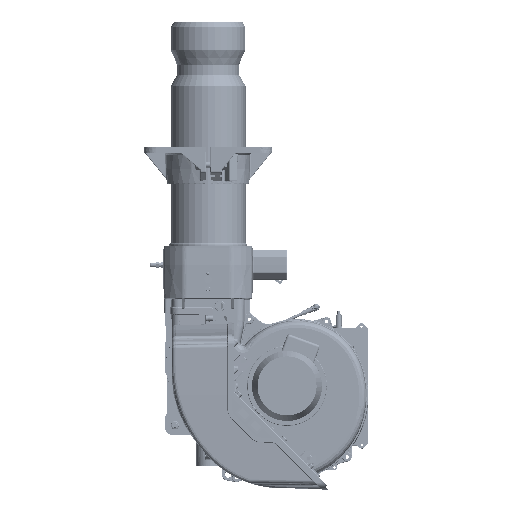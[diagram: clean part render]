
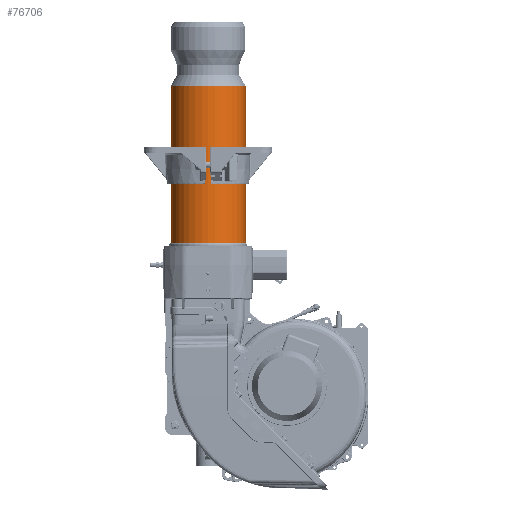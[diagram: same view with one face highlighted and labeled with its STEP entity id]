
A CAD part, left-side view. The second image highlights one B-rep face of the part: STEP entity #76706.
In plain terms, the highlighted cylindrical face has radius 76 mm (diameter 152 mm), a full revolution.
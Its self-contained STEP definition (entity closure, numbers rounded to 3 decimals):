
#21076 = AXIS2_PLACEMENT_3D ( 'NONE', #49212, #616357, #257861 ) ;
#49212 = CARTESIAN_POINT ( 'NONE',  ( -795.447, 0., 0. ) ) ;
#76706 = ADVANCED_FACE ( 'NONE', ( #191984, #365613 ), #247604, .T. ) ;
#77990 = CARTESIAN_POINT ( 'NONE',  ( -340.3, 0., 76. ) ) ;
#110390 = DIRECTION ( 'NONE',  ( 0., 0., 1. ) ) ;
#158413 = AXIS2_PLACEMENT_3D ( 'NONE', #531218, #211326, #110390 ) ;
#185660 = CIRCLE ( 'NONE', #241260, 76. ) ;
#191984 = FACE_OUTER_BOUND ( 'NONE', #365703, .T. ) ;
#199998 = ORIENTED_EDGE ( 'NONE', *, *, #411249, .T. ) ;
#211326 = DIRECTION ( 'NONE',  ( -1., 0., 0. ) ) ;
#224232 = VERTEX_POINT ( 'NONE', #77990 ) ;
#224233 = EDGE_LOOP ( 'NONE', ( #199998 ) ) ;
#241260 = AXIS2_PLACEMENT_3D ( 'NONE', #598619, #497531, #327292 ) ;
#247604 = CYLINDRICAL_SURFACE ( 'NONE', #21076, 76. ) ;
#257861 = DIRECTION ( 'NONE',  ( 0., 0., 1. ) ) ;
#327292 = DIRECTION ( 'NONE',  ( 0., 0., 1. ) ) ;
#327376 = ORIENTED_EDGE ( 'NONE', *, *, #456108, .F. ) ;
#365613 = FACE_OUTER_BOUND ( 'NONE', #224233, .T. ) ;
#365703 = EDGE_LOOP ( 'NONE', ( #327376 ) ) ;
#396054 = CARTESIAN_POINT ( 'NONE',  ( -22.347, 0., 76. ) ) ;
#411249 = EDGE_CURVE ( 'NONE', #507297, #507297, #480520, .T. ) ;
#456108 = EDGE_CURVE ( 'NONE', #224232, #224232, #185660, .T. ) ;
#480520 = CIRCLE ( 'NONE', #158413, 76. ) ;
#497531 = DIRECTION ( 'NONE',  ( -1., 0., 0. ) ) ;
#507297 = VERTEX_POINT ( 'NONE', #396054 ) ;
#531218 = CARTESIAN_POINT ( 'NONE',  ( -22.347, 0., 0. ) ) ;
#598619 = CARTESIAN_POINT ( 'NONE',  ( -340.3, 0., 0. ) ) ;
#616357 = DIRECTION ( 'NONE',  ( -1., 0., 0. ) ) ;
